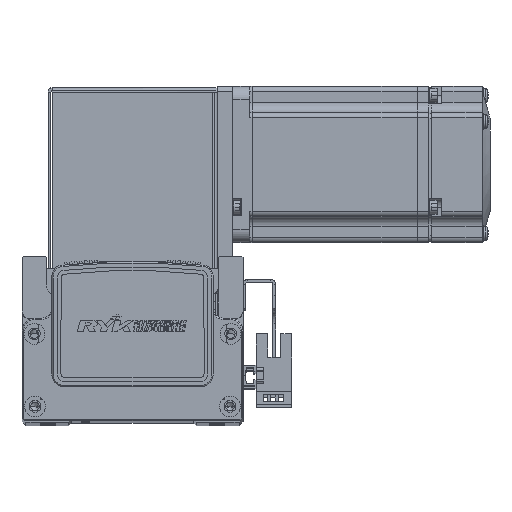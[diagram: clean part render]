
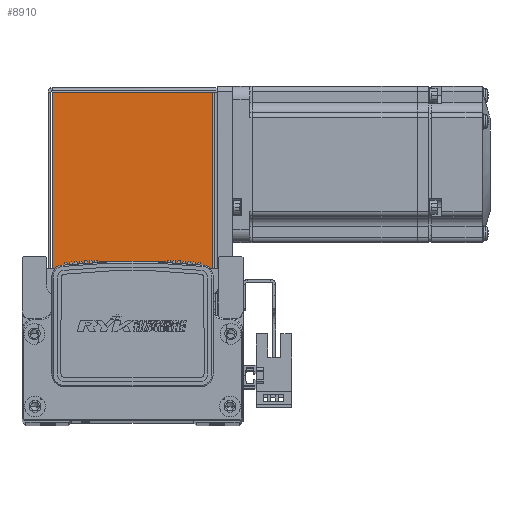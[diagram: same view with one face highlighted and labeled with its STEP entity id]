
A CAD part, top view. The second image highlights one B-rep face of the part: STEP entity #8910.
In plain terms, the highlighted planar face has unit normal (0, 0, 1) as drawn and (0, 0, -1) by its records, which use the part's own axes.
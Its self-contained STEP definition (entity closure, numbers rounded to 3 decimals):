
#8910 = ADVANCED_FACE ( 'NONE', ( #53841 ), #32891, .F. ) ;
#25591 = VERTEX_POINT ( 'NONE', #47428 ) ;
#25625 = VERTEX_POINT ( 'NONE', #47454 ) ;
#25652 = VERTEX_POINT ( 'NONE', #47426 ) ;
#25684 = VERTEX_POINT ( 'NONE', #47498 ) ;
#31185 = EDGE_LOOP ( 'NONE', ( #78183, #44964, #78159, #44992 ) ) ;
#32847 = DIRECTION ( 'NONE',  ( 0., 0., 1. ) ) ;
#32862 = CARTESIAN_POINT ( 'NONE',  ( 0., 0., -35. ) ) ;
#32869 = DIRECTION ( 'NONE',  ( 0., -1., 0. ) ) ;
#32891 = PLANE ( 'NONE',  #50936 ) ;
#44964 = ORIENTED_EDGE ( 'NONE', *, *, #63678, .F. ) ;
#44992 = ORIENTED_EDGE ( 'NONE', *, *, #63487, .T. ) ;
#47426 = CARTESIAN_POINT ( 'NONE',  ( -30.793, 0.737, -35. ) ) ;
#47428 = CARTESIAN_POINT ( 'NONE',  ( 30.763, 0.737, -35. ) ) ;
#47454 = CARTESIAN_POINT ( 'NONE',  ( -30.793, 68.5, -35. ) ) ;
#47498 = CARTESIAN_POINT ( 'NONE',  ( 30.763, 68.5, -35. ) ) ;
#50936 = AXIS2_PLACEMENT_3D ( 'NONE', #32862, #32847, #32869 ) ;
#53841 = FACE_OUTER_BOUND ( 'NONE', #31185, .T. ) ;
#59917 = LINE ( 'NONE', #61930, #59987 ) ;
#59987 = VECTOR ( 'NONE', #61936, 1000. ) ;
#60166 = LINE ( 'NONE', #62124, #60200 ) ;
#60200 = VECTOR ( 'NONE', #62146, 1000. ) ;
#60206 = LINE ( 'NONE', #62119, #60262 ) ;
#60226 = LINE ( 'NONE', #62200, #60228 ) ;
#60228 = VECTOR ( 'NONE', #62173, 1000. ) ;
#60262 = VECTOR ( 'NONE', #62087, 1000. ) ;
#61930 = CARTESIAN_POINT ( 'NONE',  ( 0., 68.5, -35. ) ) ;
#61936 = DIRECTION ( 'NONE',  ( 1., 0., 0. ) ) ;
#62087 = DIRECTION ( 'NONE',  ( 0., -1., 0. ) ) ;
#62119 = CARTESIAN_POINT ( 'NONE',  ( 30.763, 68.5, -35. ) ) ;
#62124 = CARTESIAN_POINT ( 'NONE',  ( -30.793, 0., -35. ) ) ;
#62146 = DIRECTION ( 'NONE',  ( 0., 1., 0. ) ) ;
#62173 = DIRECTION ( 'NONE',  ( 1., 0., 0. ) ) ;
#62200 = CARTESIAN_POINT ( 'NONE',  ( 32.5, 0.737, -35. ) ) ;
#63487 = EDGE_CURVE ( 'NONE', #25625, #25684, #59917, .T. ) ;
#63607 = EDGE_CURVE ( 'NONE', #25684, #25591, #60206, .T. ) ;
#63638 = EDGE_CURVE ( 'NONE', #25652, #25625, #60166, .T. ) ;
#63678 = EDGE_CURVE ( 'NONE', #25652, #25591, #60226, .T. ) ;
#78159 = ORIENTED_EDGE ( 'NONE', *, *, #63638, .T. ) ;
#78183 = ORIENTED_EDGE ( 'NONE', *, *, #63607, .T. ) ;
